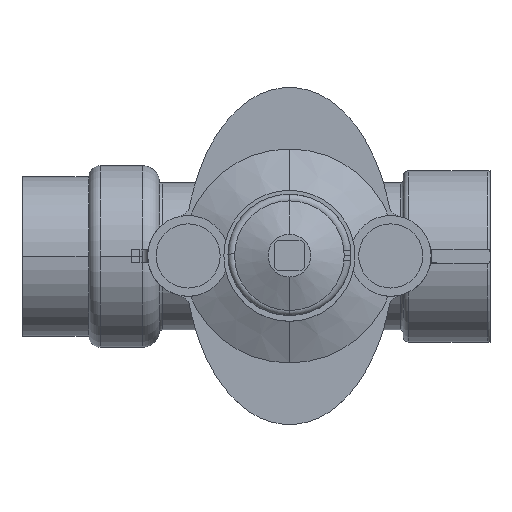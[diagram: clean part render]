
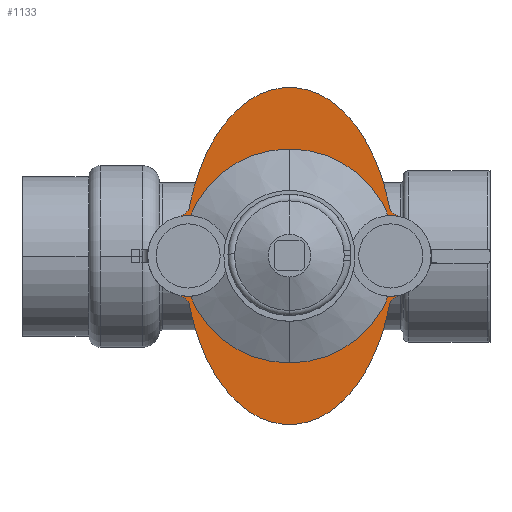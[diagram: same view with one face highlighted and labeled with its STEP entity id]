
A CAD part, top view. The second image highlights one B-rep face of the part: STEP entity #1133.
In plain terms, the highlighted planar face has unit normal (0, 0, 1).
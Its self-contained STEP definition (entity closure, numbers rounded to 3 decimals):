
#1133=ADVANCED_FACE('',(#2164),#2165,.T.);
#2164=FACE_OUTER_BOUND('',#3368,.T.);
#2165=PLANE('',#3369);
#3368=EDGE_LOOP('',(#5385,#5386,#5387,#5388,#5389,#5390,#5391,#5392,#5393,#5394,#5395,#5396,#5397,#5398,#5399,#5400,#5401,#5402,#5403,#5404,#5405,#5406,#5407,#5408,#5409,#5410));
#3369=AXIS2_PLACEMENT_3D('',#5411,#5412,#5413);
#5385=ORIENTED_EDGE('',*,*,#6823,.F.);
#5386=ORIENTED_EDGE('',*,*,#6847,.F.);
#5387=ORIENTED_EDGE('',*,*,#6577,.F.);
#5388=ORIENTED_EDGE('',*,*,#7341,.F.);
#5389=ORIENTED_EDGE('',*,*,#6686,.F.);
#5390=ORIENTED_EDGE('',*,*,#7342,.F.);
#5391=ORIENTED_EDGE('',*,*,#7343,.F.);
#5392=ORIENTED_EDGE('',*,*,#7319,.F.);
#5393=ORIENTED_EDGE('',*,*,#7344,.F.);
#5394=ORIENTED_EDGE('',*,*,#7065,.F.);
#5395=ORIENTED_EDGE('',*,*,#6753,.F.);
#5396=ORIENTED_EDGE('',*,*,#6704,.F.);
#5397=ORIENTED_EDGE('',*,*,#6644,.F.);
#5398=ORIENTED_EDGE('',*,*,#7160,.F.);
#5399=ORIENTED_EDGE('',*,*,#6582,.F.);
#5400=ORIENTED_EDGE('',*,*,#7345,.F.);
#5401=ORIENTED_EDGE('',*,*,#7346,.F.);
#5402=ORIENTED_EDGE('',*,*,#7084,.F.);
#5403=ORIENTED_EDGE('',*,*,#6637,.F.);
#5404=ORIENTED_EDGE('',*,*,#6757,.F.);
#5405=ORIENTED_EDGE('',*,*,#7347,.F.);
#5406=ORIENTED_EDGE('',*,*,#7348,.F.);
#5407=ORIENTED_EDGE('',*,*,#7289,.F.);
#5408=ORIENTED_EDGE('',*,*,#7327,.F.);
#5409=ORIENTED_EDGE('',*,*,#7349,.F.);
#5410=ORIENTED_EDGE('',*,*,#7350,.F.);
#5411=CARTESIAN_POINT('',(100.0,0.,98.591));
#5412=DIRECTION('',(0.0,0.0,1.0));
#5413=DIRECTION('',(1.0,0.0,0.0));
#6577=EDGE_CURVE('',#7696,#7697,#7698,.T.);
#6582=EDGE_CURVE('',#7705,#7706,#7707,.T.);
#6637=EDGE_CURVE('',#7799,#7794,#7801,.T.);
#6644=EDGE_CURVE('',#7812,#7813,#7814,.T.);
#6686=EDGE_CURVE('',#7883,#7885,#7886,.T.);
#6704=EDGE_CURVE('',#7813,#7914,#7915,.T.);
#6753=EDGE_CURVE('',#7914,#7997,#7998,.T.);
#6757=EDGE_CURVE('',#8003,#7799,#8004,.T.);
#6823=EDGE_CURVE('',#8112,#8113,#8114,.T.);
#6847=EDGE_CURVE('',#7697,#8112,#8153,.T.);
#7065=EDGE_CURVE('',#7997,#8500,#8501,.T.);
#7084=EDGE_CURVE('',#7794,#8527,#8528,.T.);
#7160=EDGE_CURVE('',#7706,#7812,#8639,.T.);
#7289=EDGE_CURVE('',#8805,#8806,#8807,.T.);
#7319=EDGE_CURVE('',#8849,#8850,#8851,.T.);
#7327=EDGE_CURVE('',#8861,#8805,#8862,.T.);
#7341=EDGE_CURVE('',#7885,#7696,#8880,.T.);
#7342=EDGE_CURVE('',#8881,#7883,#8882,.T.);
#7343=EDGE_CURVE('',#8850,#8881,#8883,.T.);
#7344=EDGE_CURVE('',#8500,#8849,#8884,.T.);
#7345=EDGE_CURVE('',#8885,#7705,#8886,.T.);
#7346=EDGE_CURVE('',#8527,#8885,#8887,.T.);
#7347=EDGE_CURVE('',#8888,#8003,#8889,.T.);
#7348=EDGE_CURVE('',#8806,#8888,#8890,.T.);
#7349=EDGE_CURVE('',#8891,#8861,#8892,.T.);
#7350=EDGE_CURVE('',#8113,#8891,#8893,.T.);
#7696=VERTEX_POINT('',#9298);
#7697=VERTEX_POINT('',#9299);
#7698=CIRCLE('',#9300,91.76);
#7705=VERTEX_POINT('',#9309);
#7706=VERTEX_POINT('',#9310);
#7707=CIRCLE('',#9311,75.);
#7794=VERTEX_POINT('',#9415);
#7799=VERTEX_POINT('',#9421);
#7801=CIRCLE('',#9424,15.111);
#7812=VERTEX_POINT('',#9437);
#7813=VERTEX_POINT('',#9438);
#7814=CIRCLE('',#9439,39.);
#7883=VERTEX_POINT('',#9516);
#7885=VERTEX_POINT('',#9519);
#7886=CIRCLE('',#9520,15.111);
#7914=VERTEX_POINT('',#9551);
#7915=CIRCLE('',#9552,26.049);
#7997=VERTEX_POINT('',#9645);
#7998=CIRCLE('',#9646,39.);
#8003=VERTEX_POINT('',#9652);
#8004=CIRCLE('',#9653,5.);
#8112=VERTEX_POINT('',#9785);
#8113=VERTEX_POINT('',#9786);
#8114=CIRCLE('',#9787,55.178);
#8153=CIRCLE('',#9835,75.);
#8500=VERTEX_POINT('',#10259);
#8501=CIRCLE('',#10260,55.178);
#8527=VERTEX_POINT('',#10288);
#8528=CIRCLE('',#10289,15.111);
#8639=CIRCLE('',#10428,55.178);
#8805=VERTEX_POINT('',#10633);
#8806=VERTEX_POINT('',#10634);
#8807=CIRCLE('',#10635,55.178);
#8849=VERTEX_POINT('',#10686);
#8850=VERTEX_POINT('',#10687);
#8851=CIRCLE('',#10688,91.763);
#8861=VERTEX_POINT('',#10702);
#8862=CIRCLE('',#10703,39.);
#8880=CIRCLE('',#10723,5.);
#8881=VERTEX_POINT('',#10724);
#8882=CIRCLE('',#10725,15.111);
#8883=CIRCLE('',#10726,5.);
#8884=CIRCLE('',#10727,75.);
#8885=VERTEX_POINT('',#10728);
#8886=CIRCLE('',#10729,91.76);
#8887=CIRCLE('',#10730,5.);
#8888=VERTEX_POINT('',#10731);
#8889=CIRCLE('',#10732,91.763);
#8890=CIRCLE('',#10733,75.);
#8891=VERTEX_POINT('',#10734);
#8892=CIRCLE('',#10735,26.049);
#8893=CIRCLE('',#10736,39.);
#9298=CARTESIAN_POINT('',(137.274,-18.702,98.591));
#9299=CARTESIAN_POINT('',(135.149,-27.413,98.591));
#9300=AXIS2_PLACEMENT_3D('',#11144,#11145,#11146);
#9309=CARTESIAN_POINT('',(64.851,27.413,98.591));
#9310=CARTESIAN_POINT('',(70.315,40.959,98.591));
#9311=AXIS2_PLACEMENT_3D('',#11152,#11153,#11154);
#9415=CARTESIAN_POINT('',(47.,0.,98.591));
#9421=CARTESIAN_POINT('',(58.884,-14.763,98.591));
#9424=AXIS2_PLACEMENT_3D('',#11237,#11238,#11239);
#9437=CARTESIAN_POINT('',(77.315,51.343,98.591));
#9438=CARTESIAN_POINT('',(85.166,58.364,98.591));
#9439=AXIS2_PLACEMENT_3D('',#11248,#11249,#11250);
#9516=CARTESIAN_POINT('',(153.,0.,98.591));
#9519=CARTESIAN_POINT('',(141.116,-14.763,98.591));
#9520=AXIS2_PLACEMENT_3D('',#11323,#11324,#11325);
#9551=CARTESIAN_POINT('',(114.834,58.364,98.591));
#9552=AXIS2_PLACEMENT_3D('',#11359,#11360,#11361);
#9645=CARTESIAN_POINT('',(122.685,51.343,98.591));
#9646=AXIS2_PLACEMENT_3D('',#11454,#11455,#11456);
#9652=CARTESIAN_POINT('',(62.726,-18.702,98.591));
#9653=AXIS2_PLACEMENT_3D('',#11461,#11462,#11463);
#9785=CARTESIAN_POINT('',(129.685,-40.959,98.591));
#9786=CARTESIAN_POINT('',(122.685,-51.343,98.591));
#9787=AXIS2_PLACEMENT_3D('',#11563,#11564,#11565);
#9835=AXIS2_PLACEMENT_3D('',#11602,#11603,#11604);
#10259=CARTESIAN_POINT('',(129.685,40.959,98.591));
#10260=AXIS2_PLACEMENT_3D('',#11943,#11944,#11945);
#10288=CARTESIAN_POINT('',(58.884,14.763,98.591));
#10289=AXIS2_PLACEMENT_3D('',#11978,#11979,#11980);
#10428=AXIS2_PLACEMENT_3D('',#12096,#12097,#12098);
#10633=CARTESIAN_POINT('',(77.315,-51.343,98.591));
#10634=CARTESIAN_POINT('',(70.315,-40.959,98.591));
#10635=AXIS2_PLACEMENT_3D('',#12270,#12271,#12272);
#10686=CARTESIAN_POINT('',(135.149,27.413,98.591));
#10687=CARTESIAN_POINT('',(137.274,18.702,98.591));
#10688=AXIS2_PLACEMENT_3D('',#12315,#12316,#12317);
#10702=CARTESIAN_POINT('',(85.166,-58.364,98.591));
#10703=AXIS2_PLACEMENT_3D('',#12325,#12326,#12327);
#10723=AXIS2_PLACEMENT_3D('',#12348,#12349,#12350);
#10724=CARTESIAN_POINT('',(141.116,14.763,98.591));
#10725=AXIS2_PLACEMENT_3D('',#12351,#12352,#12353);
#10726=AXIS2_PLACEMENT_3D('',#12354,#12355,#12356);
#10727=AXIS2_PLACEMENT_3D('',#12357,#12358,#12359);
#10728=CARTESIAN_POINT('',(62.726,18.702,98.591));
#10729=AXIS2_PLACEMENT_3D('',#12360,#12361,#12362);
#10730=AXIS2_PLACEMENT_3D('',#12363,#12364,#12365);
#10731=CARTESIAN_POINT('',(64.851,-27.413,98.591));
#10732=AXIS2_PLACEMENT_3D('',#12366,#12367,#12368);
#10733=AXIS2_PLACEMENT_3D('',#12369,#12370,#12371);
#10734=CARTESIAN_POINT('',(114.834,-58.364,98.591));
#10735=AXIS2_PLACEMENT_3D('',#12372,#12373,#12374);
#10736=AXIS2_PLACEMENT_3D('',#12375,#12376,#12377);
#11144=CARTESIAN_POINT('',(47.172,-1.338,98.591));
#11145=DIRECTION('',(0.0,0.0,-1.0));
#11146=DIRECTION('',(1.0,0.0,0.0));
#11152=CARTESIAN_POINT('',(136.807,6.264,98.591));
#11153=DIRECTION('',(0.0,0.0,-1.0));
#11154=DIRECTION('',(1.0,0.0,0.0));
#11237=CARTESIAN_POINT('',(62.111,0.0,98.591));
#11238=DIRECTION('',(0.0,0.0,-1.0));
#11239=DIRECTION('',(1.0,0.0,0.0));
#11248=CARTESIAN_POINT('',(106.998,26.047,98.591));
#11249=DIRECTION('',(0.0,0.0,-1.0));
#11250=DIRECTION('',(1.0,0.0,0.0));
#11323=CARTESIAN_POINT('',(137.889,0.0,98.591));
#11324=DIRECTION('',(0.0,0.0,-1.0));
#11325=DIRECTION('',(1.0,0.0,0.0));
#11359=CARTESIAN_POINT('',(100.0,36.951,98.591));
#11360=DIRECTION('',(0.0,0.0,-1.0));
#11361=DIRECTION('',(1.0,0.0,0.0));
#11454=CARTESIAN_POINT('',(93.002,26.047,98.591));
#11455=DIRECTION('',(0.0,0.0,-1.0));
#11456=DIRECTION('',(1.0,0.0,0.0));
#11461=CARTESIAN_POINT('',(57.816,-19.647,98.591));
#11462=DIRECTION('',(0.0,0.0,1.0));
#11463=DIRECTION('',(-1.0,0.0,0.0));
#11563=CARTESIAN_POINT('',(80.728,-15.508,98.591));
#11564=DIRECTION('',(0.0,0.0,-1.0));
#11565=DIRECTION('',(1.0,0.0,0.0));
#11602=CARTESIAN_POINT('',(63.193,-6.264,98.591));
#11603=DIRECTION('',(0.0,0.0,-1.0));
#11604=DIRECTION('',(1.0,0.0,0.0));
#11943=CARTESIAN_POINT('',(80.728,15.508,98.591));
#11944=DIRECTION('',(0.0,0.0,-1.0));
#11945=DIRECTION('',(1.0,0.0,0.0));
#11978=CARTESIAN_POINT('',(62.111,0.0,98.591));
#11979=DIRECTION('',(0.0,0.0,-1.0));
#11980=DIRECTION('',(1.0,0.0,0.0));
#12096=CARTESIAN_POINT('',(119.272,15.508,98.591));
#12097=DIRECTION('',(0.0,0.0,-1.0));
#12098=DIRECTION('',(1.0,0.0,0.0));
#12270=CARTESIAN_POINT('',(119.272,-15.508,98.591));
#12271=DIRECTION('',(0.0,0.0,-1.0));
#12272=DIRECTION('',(1.0,0.0,0.0));
#12315=CARTESIAN_POINT('',(47.169,1.336,98.591));
#12316=DIRECTION('',(0.0,0.0,-1.0));
#12317=DIRECTION('',(1.0,0.0,0.0));
#12325=CARTESIAN_POINT('',(106.998,-26.047,98.591));
#12326=DIRECTION('',(0.0,0.0,-1.0));
#12327=DIRECTION('',(1.0,0.0,0.0));
#12348=CARTESIAN_POINT('',(142.184,-19.647,98.591));
#12349=DIRECTION('',(0.0,0.0,1.0));
#12350=DIRECTION('',(-1.0,0.0,0.0));
#12351=CARTESIAN_POINT('',(137.889,0.0,98.591));
#12352=DIRECTION('',(0.0,0.0,-1.0));
#12353=DIRECTION('',(1.0,0.0,0.0));
#12354=CARTESIAN_POINT('',(142.184,19.647,98.591));
#12355=DIRECTION('',(0.0,0.0,1.0));
#12356=DIRECTION('',(-1.0,0.0,0.0));
#12357=CARTESIAN_POINT('',(63.193,6.264,98.591));
#12358=DIRECTION('',(0.0,0.0,-1.0));
#12359=DIRECTION('',(1.0,0.0,0.0));
#12360=CARTESIAN_POINT('',(152.828,1.338,98.591));
#12361=DIRECTION('',(0.0,0.0,-1.0));
#12362=DIRECTION('',(1.0,0.0,0.0));
#12363=CARTESIAN_POINT('',(57.816,19.647,98.591));
#12364=DIRECTION('',(0.0,0.0,1.0));
#12365=DIRECTION('',(-1.0,0.0,0.0));
#12366=CARTESIAN_POINT('',(152.831,-1.336,98.591));
#12367=DIRECTION('',(0.0,0.0,-1.0));
#12368=DIRECTION('',(1.0,0.0,0.0));
#12369=CARTESIAN_POINT('',(136.807,-6.264,98.591));
#12370=DIRECTION('',(0.0,0.0,-1.0));
#12371=DIRECTION('',(1.0,0.0,0.0));
#12372=CARTESIAN_POINT('',(100.0,-36.951,98.591));
#12373=DIRECTION('',(0.0,0.0,-1.0));
#12374=DIRECTION('',(1.0,0.0,0.0));
#12375=CARTESIAN_POINT('',(93.002,-26.047,98.591));
#12376=DIRECTION('',(0.0,0.0,-1.0));
#12377=DIRECTION('',(1.0,0.0,0.0));
